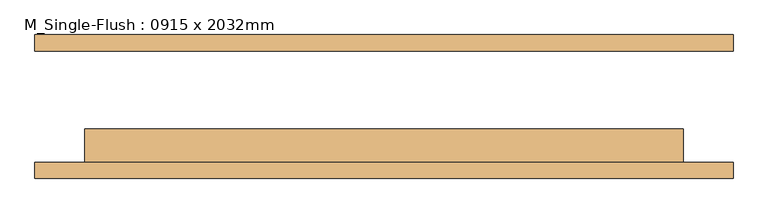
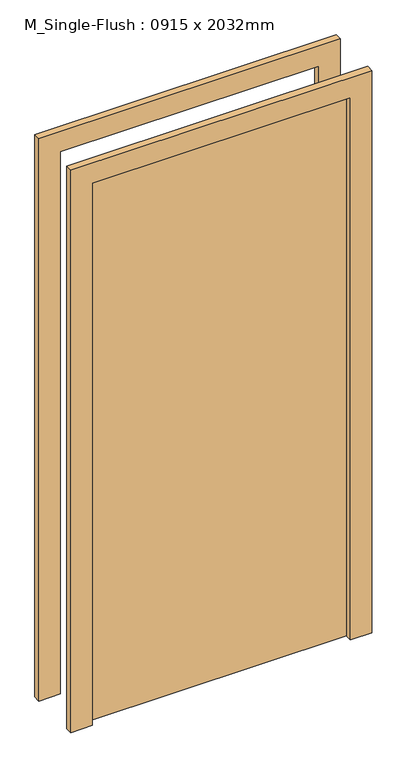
"""IFC4 building model written with IfcOpenShell, lengths in millimetres: door geometry, M_Single-Flush : 0915 x 2032mm."""

from ifc_helpers import new_model, si_unit, frame, origin, origin_with_axes, place, context, project, spatial, polyline, outline, extrude, source, transform, mapped, element, save


def m_single_flush_0915_x_2032mm_39b6ed43(model_context):
    return source(origin(), model_context, "Body", "SweptSolid", [
        extrude(outline(polyline([(2108.0, -533.5), (0.0, -533.5), (0.0, -457.5), (2032.0, -457.5), (2032.0, 457.5), (0.0, 457.5), (0.0, 533.5), (2108.0, 533.5), (2108.0, -533.5)])), frame((0.0, -110.0, 0.0), z_axis=(0.0, 1.0, 0.0), x_axis=(0.0, 0.0, 1.0)), (0.0, 0.0, 1.0), 25.0),
        extrude(outline(polyline([(2108.0, 533.5), (2108.0, -533.5), (0.0, -533.5), (0.0, -457.5), (2032.0, -457.5), (2032.0, 457.5), (0.0, 457.5), (0.0, 533.5), (2108.0, 533.5)])), frame((0.0, 85.0, 0.0), z_axis=(0.0, 1.0, 0.0), x_axis=(0.0, 0.0, 1.0)), (0.0, 0.0, 1.0), 25.0),
        extrude(outline(polyline([(457.5, -34.0), (457.5, -85.0), (-457.5, -85.0), (-457.5, -34.0), (457.5, -34.0)])), origin_with_axes(), (0.0, 0.0, 1.0), 2032.0),
    ])


if __name__ == "__main__":
    model = new_model("IFC4")
    model_context = context("Model", 3, world=origin())
    ifc_project = project(units=[si_unit("LENGTHUNIT", "METRE", prefix="MILLI")], contexts=[model_context])
    site = spatial("IfcSite", under=ifc_project)
    building = spatial("IfcBuilding", under=site)
    placement = place(None, origin())
    m_single_flush_0915_x_2032mm_shape = m_single_flush_0915_x_2032mm_39b6ed43(model_context)
    element("IfcDoor", 1, ObjectType="M_Single-Flush : 0915 x 2032mm", at=placement, inside=building, context=model_context, shape_type="MappedRepresentation", body=[
        mapped(m_single_flush_0915_x_2032mm_shape, transform((0.0, 0.0, 0.0), x_axis=(1.0, 0.0, 0.0), y_axis=(0.0, 1.0, 0.0), z_axis=(0.0, 0.0, 1.0))),
    ])
    save(model, "model.ifc")
